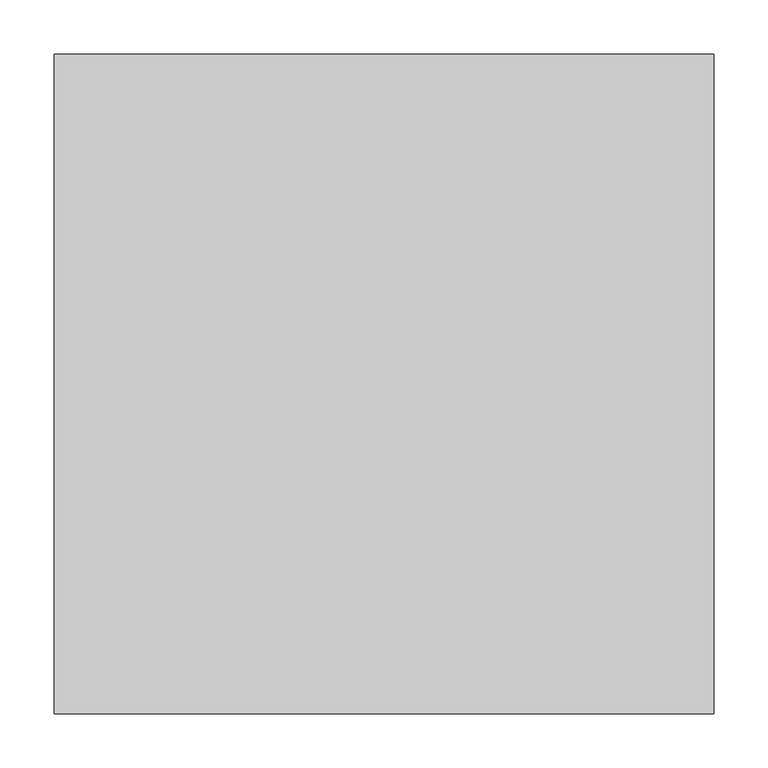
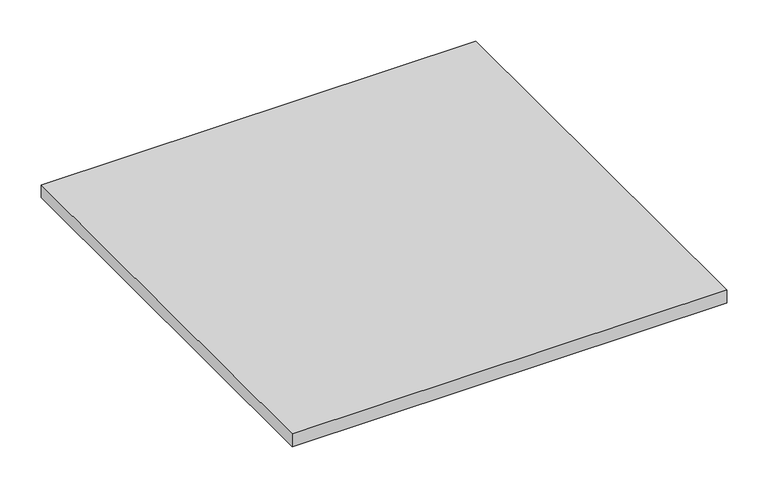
"""IFC4 building model written with IfcOpenShell, lengths in millimetres: furniture geometry, Steelcase - Universal Storage - Adjustable Steel Standard Shelf : 24D x 24W."""

from ifc_helpers import new_model, si_unit, frame, origin, place, context, project, spatial, polyline, outline, extrude, source, transform, mapped, element, save


def furniture_fac06473(model_context):
    return source(origin(), model_context, "Body", "SweptSolid", [
        extrude(outline(polyline([(609.6, 0.0), (609.6, -609.6), (0.0, -609.6), (0.0, 0.0), (609.6, 0.0)])), frame((0.0, 0.0, 285.75), z_axis=(0.0, 0.0, 1.0), x_axis=(1.0, 0.0, 0.0)), (0.0, 0.0, 1.0), 19.05),
    ])


if __name__ == "__main__":
    model = new_model("IFC4")
    model_context = context("Model", 3, world=origin())
    ifc_project = project(units=[si_unit("LENGTHUNIT", "METRE", prefix="MILLI")], contexts=[model_context])
    site = spatial("IfcSite", under=ifc_project)
    building = spatial("IfcBuilding", under=site)
    placement = place(None, origin())
    furniture_shape = furniture_fac06473(model_context)
    element("IfcFurniture", 1, ObjectType="Steelcase - Universal Storage - Adjustable Steel Standard Shelf : 24D x 24W", at=placement, inside=building, context=model_context, shape_type="MappedRepresentation", body=[
        mapped(furniture_shape, transform((0.0, 0.0, 0.0), x_axis=(1.0, 0.0, 0.0), y_axis=(0.0, 1.0, 0.0), z_axis=(0.0, 0.0, 1.0))),
    ])
    save(model, "model.ifc")
